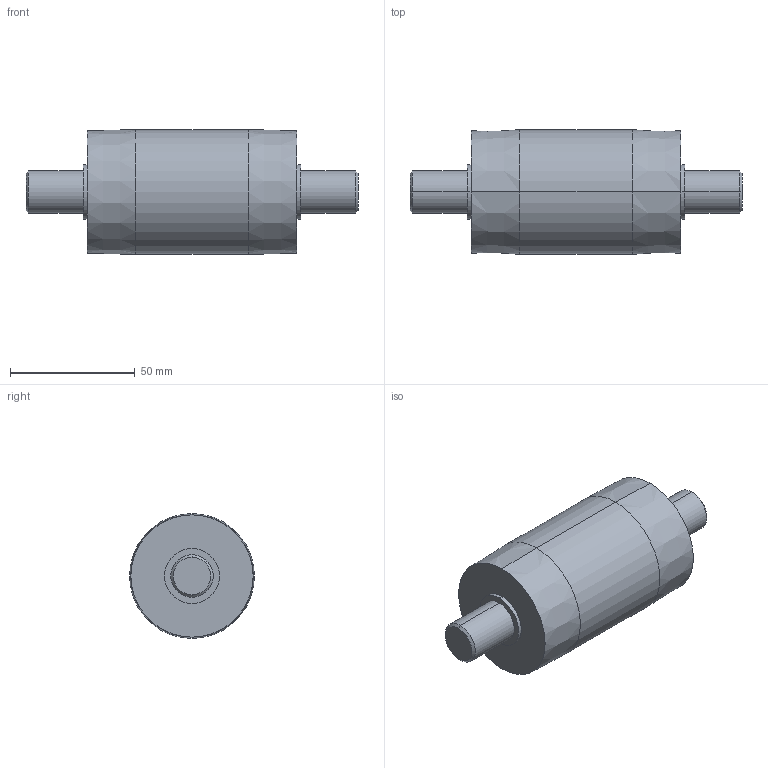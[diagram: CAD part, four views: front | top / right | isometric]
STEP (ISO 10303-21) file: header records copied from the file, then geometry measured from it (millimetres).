
FILE_DESCRIPTION (( 'STEP AP203' ), '1' );
FILE_NAME ('084.815.108.STEP', '2013-01-29T13:04:00', ( 'Alusic' ), ( 'Alusic' ), 'SwSTEP 2.0', 'SolidWorks 2011', '' );
FILE_SCHEMA (( 'CONFIG_CONTROL_DESIGN' ));
Length unit declared in the file: millimetre
Products named in the file (1): 084.815.108
Bounding box: 133 x 50 x 50 mm (x, y, z)
Volume: 174942.5 mm3; surface area: 19505.8 mm2
Topology: 1 solids, 1 shells, 24 faces, 46 edges, 28 vertices
Faces by surface type: cylinder 10, cone 8, plane 6
Entity records: 691 total; most frequent: DIRECTION 124, CARTESIAN_POINT 99, ORIENTED_EDGE 92, AXIS2_PLACEMENT_3D 53, EDGE_CURVE 46, CIRCLE 28, EDGE_LOOP 28, VERTEX_POINT 28
